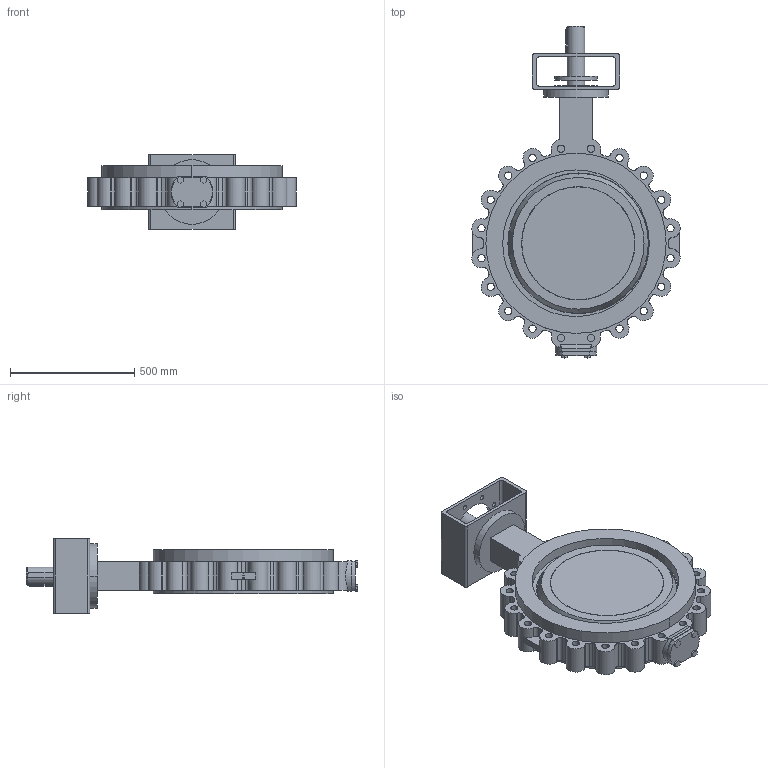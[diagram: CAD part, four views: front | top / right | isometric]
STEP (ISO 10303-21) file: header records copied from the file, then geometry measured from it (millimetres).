
FILE_DESCRIPTION( ( '' ), '1' );
FILE_NAME( 'F:/DE-SHS/TB/OR/04-Sonstiges/daten/files_3d/018_ZETRIX-PN10_freiesWellende/c000006367.stp', '2016-09-01T11:04:51', ( '' ), ( '' ), ' ', ' ', ' ' );
FILE_SCHEMA( ( 'CONFIG_CONTROL_DESIGN' ) );
Length unit declared in the file: millimetre
Products named in the file (1): 1
Bounding box: 837.48 x 1335 x 300 mm (x, y, z)
Volume: 68647161.6 mm3; surface area: 3069318 mm2
Topology: 1 solids, 1 shells, 356 faces, 990 edges, 658 vertices
Faces by surface type: cylinder 234, plane 114, cone 4, sphere 4
Entity records: 12646 total; most frequent: CARTESIAN_POINT 2903, DIRECTION 2170, ORIENTED_EDGE 1980, EDGE_CURVE 990, AXIS2_PLACEMENT_3D 855, VERTEX_POINT 658, CIRCLE 494, LINE 460
